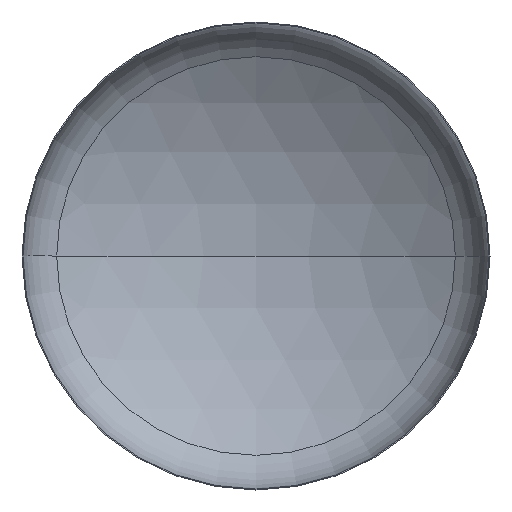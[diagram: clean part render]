
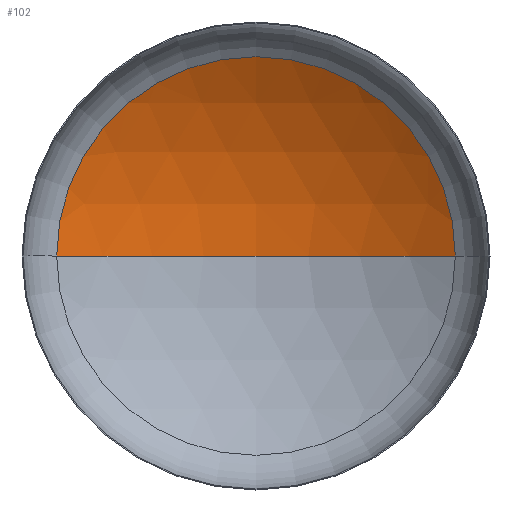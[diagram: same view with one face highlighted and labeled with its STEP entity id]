
A CAD part, front view. The second image highlights one B-rep face of the part: STEP entity #102.
In plain terms, the highlighted spherical face has radius 4800 mm.
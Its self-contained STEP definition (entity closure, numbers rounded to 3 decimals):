
#24 = VERTEX_POINT ( 'NONE', #288 ) ;
#28 = ORIENTED_EDGE ( 'NONE', *, *, #78, .T. ) ;
#39 = ORIENTED_EDGE ( 'NONE', *, *, #82, .T. ) ;
#66 = VERTEX_POINT ( 'NONE', #335 ) ;
#78 = EDGE_CURVE ( 'NONE', #161, #66, #338, .T. ) ;
#82 = EDGE_CURVE ( 'NONE', #24, #161, #273, .T. ) ;
#87 = ORIENTED_EDGE ( 'NONE', *, *, #89, .F. ) ;
#89 = EDGE_CURVE ( 'NONE', #24, #66, #202, .T. ) ;
#102 = ADVANCED_FACE ( 'NONE', ( #265 ), #325, .F. ) ;
#119 = EDGE_LOOP ( 'NONE', ( #87, #39, #28 ) ) ;
#161 = VERTEX_POINT ( 'NONE', #241 ) ;
#172 = DIRECTION ( 'NONE',  ( -1., 0., 0. ) ) ;
#173 = DIRECTION ( 'NONE',  ( 0., 0., 1. ) ) ;
#192 = AXIS2_PLACEMENT_3D ( 'NONE', #309, #214, #207 ) ;
#193 = CARTESIAN_POINT ( 'NONE',  ( 0., -3240.191, 0. ) ) ;
#194 = DIRECTION ( 'NONE',  ( 0., 0., -1. ) ) ;
#197 = DIRECTION ( 'NONE',  ( -1., 0., 0. ) ) ;
#202 = CIRCLE ( 'NONE', #228, 4800. ) ;
#207 = DIRECTION ( 'NONE',  ( 1., 0., 0. ) ) ;
#210 = AXIS2_PLACEMENT_3D ( 'NONE', #193, #194, #172 ) ;
#214 = DIRECTION ( 'NONE',  ( 0., -1., 0. ) ) ;
#223 = DIRECTION ( 'NONE',  ( 1., 0., 0. ) ) ;
#228 = AXIS2_PLACEMENT_3D ( 'NONE', #255, #173, #223 ) ;
#231 = CARTESIAN_POINT ( 'NONE',  ( 0., -3240.191, 0. ) ) ;
#241 = CARTESIAN_POINT ( 'NONE',  ( 2555.458, 823.013, 0. ) ) ;
#255 = CARTESIAN_POINT ( 'NONE',  ( 0., -3240.191, 0. ) ) ;
#265 = FACE_OUTER_BOUND ( 'NONE', #119, .T. ) ;
#273 = CIRCLE ( 'NONE', #210, 4800. ) ;
#288 = CARTESIAN_POINT ( 'NONE',  ( 0., 1559.809, 0. ) ) ;
#309 = CARTESIAN_POINT ( 'NONE',  ( 0., 823.013, 0. ) ) ;
#312 = AXIS2_PLACEMENT_3D ( 'NONE', #231, #366, #197 ) ;
#325 = SPHERICAL_SURFACE ( 'NONE', #312, 4800. ) ;
#335 = CARTESIAN_POINT ( 'NONE',  ( -2555.458, 823.013, 0. ) ) ;
#338 = CIRCLE ( 'NONE', #192, 2555.458 ) ;
#366 = DIRECTION ( 'NONE',  ( 0., 0., -1. ) ) ;
